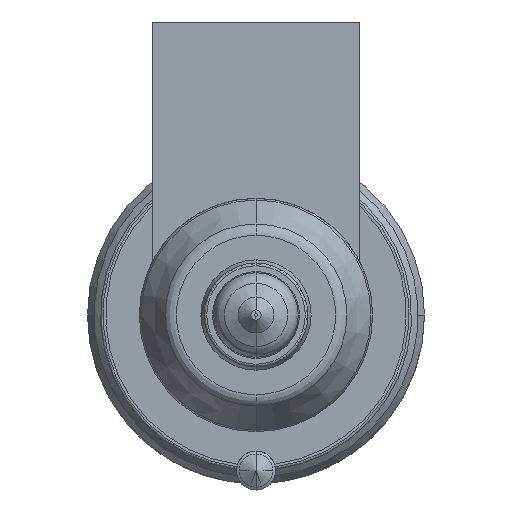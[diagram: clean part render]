
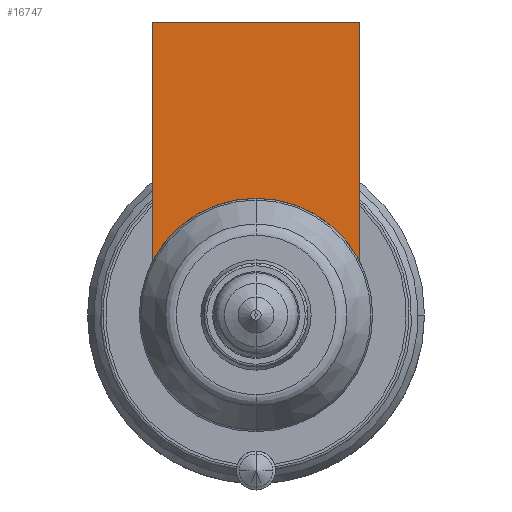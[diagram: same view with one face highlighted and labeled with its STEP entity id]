
A CAD part, front view. The second image highlights one B-rep face of the part: STEP entity #16747.
In plain terms, the highlighted planar face has unit normal (0, -1, 0).
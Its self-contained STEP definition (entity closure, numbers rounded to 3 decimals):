
#15265=DIRECTION('',(0.,0.,-1.));
#15266=VECTOR('',#15265,18.481);
#15267=CARTESIAN_POINT('',(-8.,-54.,22.604));
#15268=LINE('',#15267,#15266);
#15895=CARTESIAN_POINT('',(0.,-54.,0.));
#15896=DIRECTION('',(0.,-1.,0.));
#15897=DIRECTION('',(0.,0.,1.));
#15898=AXIS2_PLACEMENT_3D('',#15895,#15896,#15897);
#15903=DIRECTION('',(1.,0.,0.));
#15904=VECTOR('',#15903,16.);
#15905=CARTESIAN_POINT('',(-8.,-54.,22.604));
#15906=LINE('',#15905,#15904);
#15910=CARTESIAN_POINT('',(0.,-54.,0.));
#15911=DIRECTION('',(0.,-1.,0.));
#15912=DIRECTION('',(0.889,0.,0.458));
#15913=AXIS2_PLACEMENT_3D('',#15910,#15911,#15912);
#15996=DIRECTION('',(0.,0.,-1.));
#15997=VECTOR('',#15996,18.481);
#15998=CARTESIAN_POINT('',(8.,-54.,22.604));
#15999=LINE('',#15998,#15997);
#16105=CARTESIAN_POINT('',(-8.,-54.,22.604));
#16106=VERTEX_POINT('',#16105);
#16111=CARTESIAN_POINT('',(8.,-54.,22.604));
#16112=VERTEX_POINT('',#16111);
#16114=CARTESIAN_POINT('',(-8.,-54.,4.123));
#16116=VERTEX_POINT('',#16114);
#16118=CARTESIAN_POINT('',(8.,-54.,4.123));
#16120=VERTEX_POINT('',#16118);
#16121=CARTESIAN_POINT('',(0.,-54.,9.));
#16122=VERTEX_POINT('',#16121);
#16733=CARTESIAN_POINT('',(-8.,-54.,22.604));
#16734=DIRECTION('',(0.,-1.,0.));
#16735=DIRECTION('',(0.,0.,-1.));
#16736=AXIS2_PLACEMENT_3D('',#16733,#16734,#16735);
#16737=PLANE('',#16736);
#16738=ORIENTED_EDGE('',*,*,#16162,.T.);
#16739=ORIENTED_EDGE('',*,*,#16145,.F.);
#16741=ORIENTED_EDGE('',*,*,#16740,.T.);
#16743=ORIENTED_EDGE('',*,*,#16742,.T.);
#16744=ORIENTED_EDGE('',*,*,#16210,.T.);
#16745=EDGE_LOOP('',(#16738,#16739,#16741,#16743,#16744));
#16746=FACE_OUTER_BOUND('',#16745,.F.);
#16747=ADVANCED_FACE('',(#16746),#16737,.T.);
#15899=CIRCLE('',#15898,9.);
#15914=CIRCLE('',#15913,9.);
#16145=EDGE_CURVE('',#16106,#16116,#15268,.T.);
#16162=EDGE_CURVE('',#16122,#16116,#15899,.T.);
#16210=EDGE_CURVE('',#16120,#16122,#15914,.T.);
#16740=EDGE_CURVE('',#16106,#16112,#15906,.T.);
#16742=EDGE_CURVE('',#16112,#16120,#15999,.T.);
